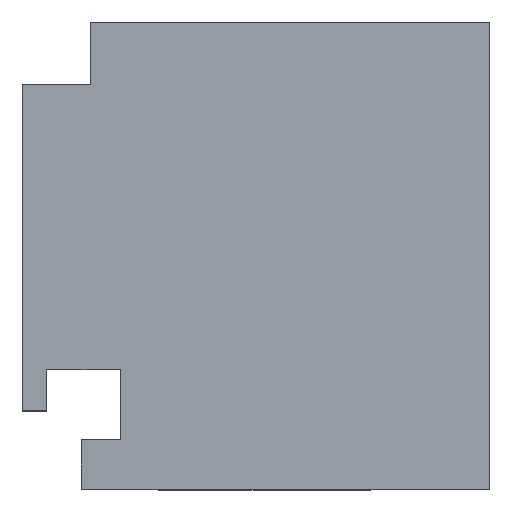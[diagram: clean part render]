
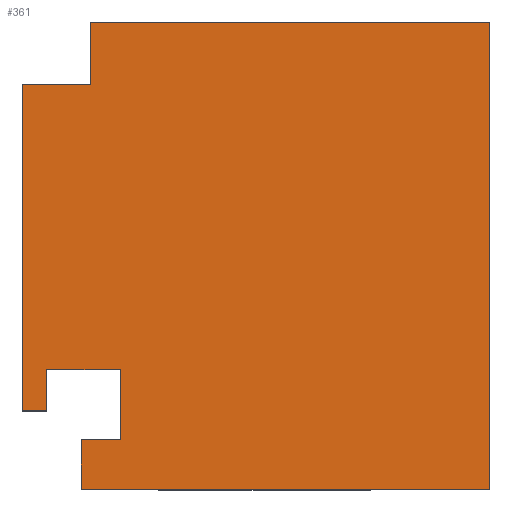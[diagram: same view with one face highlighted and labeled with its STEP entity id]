
A CAD part, top view. The second image highlights one B-rep face of the part: STEP entity #361.
In plain terms, the highlighted planar face has unit normal (0, 0, 1).
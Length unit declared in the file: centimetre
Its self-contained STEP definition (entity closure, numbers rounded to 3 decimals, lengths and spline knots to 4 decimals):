
#39 = DIRECTION ( 'NONE',  ( 0., -1., 0. ) ) ;
#45 = ORIENTED_EDGE ( 'NONE', *, *, #1317, .T. ) ;
#82 = CARTESIAN_POINT ( 'NONE',  ( 51.591, 256.0994, 1000. ) ) ;
#87 = VECTOR ( 'NONE', #667, 100. ) ;
#99 = CARTESIAN_POINT ( 'NONE',  ( 51.591, 105.6603, 1000. ) ) ;
#114 = CARTESIAN_POINT ( 'NONE',  ( 1000., 0., 1000. ) ) ;
#131 = CARTESIAN_POINT ( 'NONE',  ( 0., 0., 1000. ) ) ;
#181 = ORIENTED_EDGE ( 'NONE', *, *, #1296, .T. ) ;
#184 = CARTESIAN_POINT ( 'NONE',  ( 0., 0., 1000. ) ) ;
#201 = VERTEX_POINT ( 'NONE', #785 ) ;
#203 = DIRECTION ( 'NONE',  ( 0., 1., 0. ) ) ;
#204 = LINE ( 'NONE', #1140, #1398 ) ;
#208 = DIRECTION ( 'NONE',  ( -1., 0., 0. ) ) ;
#213 = VECTOR ( 'NONE', #1116, 100. ) ;
#231 = DIRECTION ( 'NONE',  ( 1., 0., 0. ) ) ;
#245 = ORIENTED_EDGE ( 'NONE', *, *, #1002, .T. ) ;
#275 = EDGE_CURVE ( 'NONE', #526, #1119, #914, .T. ) ;
#277 = EDGE_CURVE ( 'NONE', #983, #201, #1269, .T. ) ;
#280 = CARTESIAN_POINT ( 'NONE',  ( 209.8987, 105.6603, 1000. ) ) ;
#321 = CARTESIAN_POINT ( 'NONE',  ( 51.591, 105.6603, 1000. ) ) ;
#338 = VECTOR ( 'NONE', #574, 100. ) ;
#356 = DIRECTION ( 'NONE',  ( 1., 0., 0. ) ) ;
#361 = ADVANCED_FACE ( 'NONE', ( #1194 ), #1292, .T. ) ;
#367 = VECTOR ( 'NONE', #203, 100. ) ;
#379 = ORIENTED_EDGE ( 'NONE', *, *, #275, .T. ) ;
#405 = ORIENTED_EDGE ( 'NONE', *, *, #668, .F. ) ;
#413 = LINE ( 'NONE', #1020, #1206 ) ;
#472 = CARTESIAN_POINT ( 'NONE',  ( 0., 865.641, 1000. ) ) ;
#500 = LINE ( 'NONE', #1456, #213 ) ;
#512 = VECTOR ( 'NONE', #356, 100. ) ;
#524 = LINE ( 'NONE', #280, #1226 ) ;
#526 = VERTEX_POINT ( 'NONE', #1341 ) ;
#574 = DIRECTION ( 'NONE',  ( 1., 0., 0. ) ) ;
#578 = VERTEX_POINT ( 'NONE', #627 ) ;
#580 = EDGE_CURVE ( 'NONE', #1119, #1389, #500, .T. ) ;
#595 = CARTESIAN_POINT ( 'NONE',  ( 144.8324, 865.641, 1000. ) ) ;
#627 = CARTESIAN_POINT ( 'NONE',  ( 125.9867, 105.6603, 1000. ) ) ;
#630 = EDGE_CURVE ( 'NONE', #1389, #1256, #524, .T. ) ;
#632 = ORIENTED_EDGE ( 'NONE', *, *, #580, .T. ) ;
#635 = VERTEX_POINT ( 'NONE', #756 ) ;
#667 = DIRECTION ( 'NONE',  ( 0., 1., 0. ) ) ;
#668 = EDGE_CURVE ( 'NONE', #876, #1484, #1265, .T. ) ;
#692 = CARTESIAN_POINT ( 'NONE',  ( 0., 167.6825, 1000. ) ) ;
#715 = EDGE_CURVE ( 'NONE', #635, #526, #1390, .T. ) ;
#726 = CARTESIAN_POINT ( 'NONE',  ( 144.8324, 1000., 1000. ) ) ;
#746 = ORIENTED_EDGE ( 'NONE', *, *, #715, .T. ) ;
#756 = CARTESIAN_POINT ( 'NONE',  ( 0., 167.6825, 1000. ) ) ;
#771 = EDGE_LOOP ( 'NONE', ( #405, #1208, #181, #746, #379, #632, #1196, #45, #1211, #866, #1343, #245 ) ) ;
#772 = CARTESIAN_POINT ( 'NONE',  ( 1000., 1000., 1000. ) ) ;
#785 = CARTESIAN_POINT ( 'NONE',  ( 1000., 1000., 1000. ) ) ;
#792 = DIRECTION ( 'NONE',  ( 1., 0., 0. ) ) ;
#838 = VECTOR ( 'NONE', #1371, 100. ) ;
#861 = VERTEX_POINT ( 'NONE', #472 ) ;
#866 = ORIENTED_EDGE ( 'NONE', *, *, #1107, .T. ) ;
#876 = VERTEX_POINT ( 'NONE', #595 ) ;
#882 = DIRECTION ( 'NONE',  ( 0., -1., 0. ) ) ;
#914 = LINE ( 'NONE', #321, #838 ) ;
#928 = DIRECTION ( 'NONE',  ( -1., 0., 0. ) ) ;
#934 = VECTOR ( 'NONE', #928, 100. ) ;
#951 = AXIS2_PLACEMENT_3D ( 'NONE', #131, #1423, #231 ) ;
#968 = EDGE_CURVE ( 'NONE', #861, #876, #1174, .T. ) ;
#983 = VERTEX_POINT ( 'NONE', #114 ) ;
#1002 = EDGE_CURVE ( 'NONE', #201, #1484, #1370, .T. ) ;
#1020 = CARTESIAN_POINT ( 'NONE',  ( 125.9867, 0., 1000. ) ) ;
#1027 = VECTOR ( 'NONE', #792, 100. ) ;
#1038 = CARTESIAN_POINT ( 'NONE',  ( 209.8987, 256.0994, 1000. ) ) ;
#1049 = EDGE_CURVE ( 'NONE', #578, #1331, #413, .T. ) ;
#1107 = EDGE_CURVE ( 'NONE', #1331, #983, #1243, .T. ) ;
#1116 = DIRECTION ( 'NONE',  ( 1., 0., 0. ) ) ;
#1119 = VERTEX_POINT ( 'NONE', #82 ) ;
#1123 = CARTESIAN_POINT ( 'NONE',  ( 209.8987, 105.6603, 1000. ) ) ;
#1140 = CARTESIAN_POINT ( 'NONE',  ( 0., 1000., 1000. ) ) ;
#1174 = LINE ( 'NONE', #1392, #512 ) ;
#1194 = FACE_OUTER_BOUND ( 'NONE', #771, .T. ) ;
#1196 = ORIENTED_EDGE ( 'NONE', *, *, #630, .T. ) ;
#1206 = VECTOR ( 'NONE', #882, 100. ) ;
#1208 = ORIENTED_EDGE ( 'NONE', *, *, #968, .F. ) ;
#1211 = ORIENTED_EDGE ( 'NONE', *, *, #1049, .T. ) ;
#1226 = VECTOR ( 'NONE', #39, 100. ) ;
#1236 = CARTESIAN_POINT ( 'NONE',  ( 0., 1000., 1000. ) ) ;
#1243 = LINE ( 'NONE', #184, #1027 ) ;
#1255 = LINE ( 'NONE', #99, #934 ) ;
#1256 = VERTEX_POINT ( 'NONE', #1123 ) ;
#1265 = LINE ( 'NONE', #1510, #87 ) ;
#1269 = LINE ( 'NONE', #772, #367 ) ;
#1280 = DIRECTION ( 'NONE',  ( 0., -1., 0. ) ) ;
#1292 = PLANE ( 'NONE',  #951 ) ;
#1296 = EDGE_CURVE ( 'NONE', #861, #635, #204, .T. ) ;
#1317 = EDGE_CURVE ( 'NONE', #1256, #578, #1255, .T. ) ;
#1331 = VERTEX_POINT ( 'NONE', #1388 ) ;
#1341 = CARTESIAN_POINT ( 'NONE',  ( 51.591, 167.6825, 1000. ) ) ;
#1343 = ORIENTED_EDGE ( 'NONE', *, *, #277, .T. ) ;
#1352 = VECTOR ( 'NONE', #208, 100. ) ;
#1370 = LINE ( 'NONE', #1236, #1352 ) ;
#1371 = DIRECTION ( 'NONE',  ( 0., 1., 0. ) ) ;
#1388 = CARTESIAN_POINT ( 'NONE',  ( 125.9867, 0., 1000. ) ) ;
#1389 = VERTEX_POINT ( 'NONE', #1038 ) ;
#1390 = LINE ( 'NONE', #692, #338 ) ;
#1392 = CARTESIAN_POINT ( 'NONE',  ( 0., 865.641, 1000. ) ) ;
#1398 = VECTOR ( 'NONE', #1280, 100. ) ;
#1423 = DIRECTION ( 'NONE',  ( 0., 0., 1. ) ) ;
#1456 = CARTESIAN_POINT ( 'NONE',  ( 51.591, 256.0994, 1000. ) ) ;
#1484 = VERTEX_POINT ( 'NONE', #726 ) ;
#1510 = CARTESIAN_POINT ( 'NONE',  ( 144.8324, 865.641, 1000. ) ) ;
